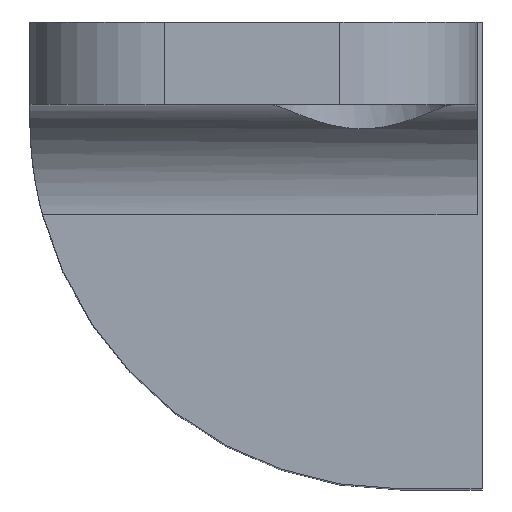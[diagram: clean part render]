
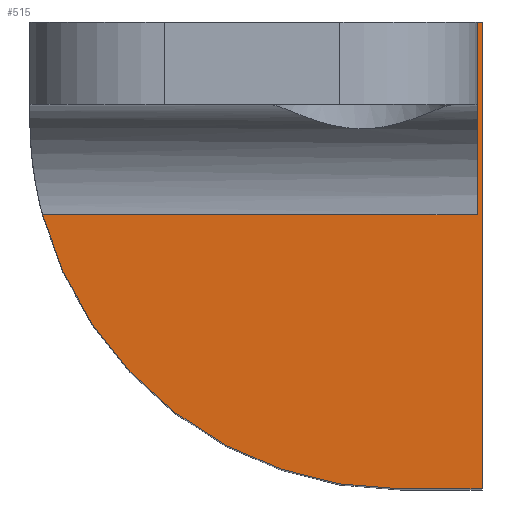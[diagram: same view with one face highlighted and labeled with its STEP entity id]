
A CAD part, top view. The second image highlights one B-rep face of the part: STEP entity #515.
In plain terms, the highlighted planar face has unit normal (0, 0, 1).
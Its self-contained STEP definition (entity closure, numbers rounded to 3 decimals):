
#41=LINE('',#868,#92);
#42=LINE('',#872,#93);
#43=LINE('',#874,#94);
#44=LINE('',#876,#95);
#45=LINE('',#877,#96);
#92=VECTOR('',#661,10.);
#93=VECTOR('',#666,10.);
#94=VECTOR('',#667,10.);
#95=VECTOR('',#668,10.);
#96=VECTOR('',#669,10.);
#126=PLANE('',#569);
#147=FACE_OUTER_BOUND('',#176,.T.);
#176=EDGE_LOOP('',(#404,#405,#406,#407,#408,#409));
#206=CIRCLE('',#565,13.5);
#246=VERTEX_POINT('',#850);
#247=VERTEX_POINT('',#852);
#249=VERTEX_POINT('',#867);
#250=VERTEX_POINT('',#871);
#251=VERTEX_POINT('',#873);
#252=VERTEX_POINT('',#875);
#303=EDGE_CURVE('',#246,#247,#206,.T.);
#307=EDGE_CURVE('',#247,#249,#41,.T.);
#309=EDGE_CURVE('',#250,#246,#42,.T.);
#310=EDGE_CURVE('',#251,#250,#43,.T.);
#311=EDGE_CURVE('',#251,#252,#44,.T.);
#312=EDGE_CURVE('',#252,#249,#45,.T.);
#404=ORIENTED_EDGE('',*,*,#307,.F.);
#405=ORIENTED_EDGE('',*,*,#303,.F.);
#406=ORIENTED_EDGE('',*,*,#309,.F.);
#407=ORIENTED_EDGE('',*,*,#310,.F.);
#408=ORIENTED_EDGE('',*,*,#311,.T.);
#409=ORIENTED_EDGE('',*,*,#312,.T.);
#515=ADVANCED_FACE('',(#147),#126,.F.);
#565=AXIS2_PLACEMENT_3D('',#853,#653,#654);
#569=AXIS2_PLACEMENT_3D('',#870,#664,#665);
#653=DIRECTION('center_axis',(0.,0.,
-1.));
#654=DIRECTION('ref_axis',(-0.707,-0.707,0.));
#661=DIRECTION('',(1.,0.,0.));
#664=DIRECTION('center_axis',(0.,0.,
-1.));
#665=DIRECTION('ref_axis',(-1.,0.,0.));
#666=DIRECTION('',(-1.,0.,0.));
#667=DIRECTION('',(0.,-1.,0.));
#668=DIRECTION('',(-1.,0.,0.));
#669=DIRECTION('',(0.,-1.,0.));
#850=CARTESIAN_POINT('',(-16.993,-11.151,43.26));
#852=CARTESIAN_POINT('',(-30.031,-1.151,43.26));
#853=CARTESIAN_POINT('Origin',(-16.993,2.349,43.26));
#867=CARTESIAN_POINT('',(-14.193,-1.151,43.26));
#868=CARTESIAN_POINT('',(12.832,-1.151,43.26));
#870=CARTESIAN_POINT('Origin',(23.872,-11.151,43.26));
#871=CARTESIAN_POINT('',(-14.008,-11.151,43.26));
#872=CARTESIAN_POINT('',(-3.31,-11.151,43.26));
#873=CARTESIAN_POINT('',(-14.008,5.849,43.26));
#874=CARTESIAN_POINT('',(-14.008,-11.151,43.26));
#875=CARTESIAN_POINT('',(-14.193,5.849,43.26));
#876=CARTESIAN_POINT('',(12.807,5.849,43.26));
#877=CARTESIAN_POINT('',(-14.193,-2.651,43.26));
